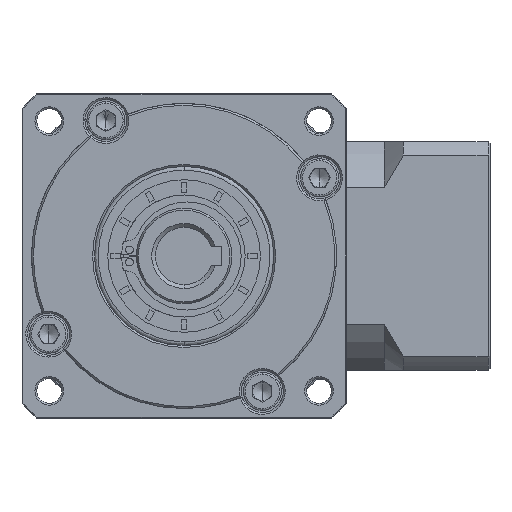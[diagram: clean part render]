
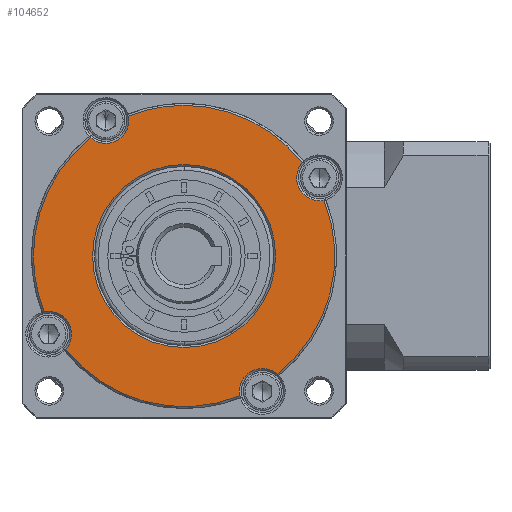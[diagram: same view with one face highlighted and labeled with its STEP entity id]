
A CAD part, left-side view. The second image highlights one B-rep face of the part: STEP entity #104652.
In plain terms, the highlighted planar face has unit normal (-1, 0, 0).
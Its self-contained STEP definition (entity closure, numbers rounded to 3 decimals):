
#3591 = VERTEX_POINT ( 'NONE', #18920 ) ;
#5042 = AXIS2_PLACEMENT_3D ( 'NONE', #129008, #50722, #142163 ) ;
#5152 = EDGE_CURVE ( 'NONE', #13334, #133996, #32668, .T. ) ;
#5500 = EDGE_CURVE ( 'NONE', #47275, #13334, #122535, .T. ) ;
#5593 = CARTESIAN_POINT ( 'NONE',  ( -107.42, 6.028, -115.877 ) ) ;
#7303 = AXIS2_PLACEMENT_3D ( 'NONE', #48671, #140108, #61815 ) ;
#8392 = CIRCLE ( 'NONE', #154260, 39.5 ) ;
#9655 = DIRECTION ( 'NONE',  ( 1., 0., 0. ) ) ;
#11851 = AXIS2_PLACEMENT_3D ( 'NONE', #45869, #137305, #59050 ) ;
#13334 = VERTEX_POINT ( 'NONE', #161311 ) ;
#18645 = DIRECTION ( 'NONE',  ( 0., 1., 0. ) ) ;
#18866 = VERTEX_POINT ( 'NONE', #71332 ) ;
#18920 = CARTESIAN_POINT ( 'NONE',  ( -107.42, -17.972, -115.877 ) ) ;
#19806 = CIRCLE ( 'NONE', #88698, 39.5 ) ;
#20586 = DIRECTION ( 'NONE',  ( 1., 0., 0. ) ) ;
#20839 = CARTESIAN_POINT ( 'NONE',  ( -107.42, 6.028, -115.877 ) ) ;
#22067 = FACE_OUTER_BOUND ( 'NONE', #165148, .T. ) ;
#23769 = CARTESIAN_POINT ( 'NONE',  ( -107.42, 42.723, -130.496 ) ) ;
#25261 = AXIS2_PLACEMENT_3D ( 'NONE', #54951, #146378, #68099 ) ;
#26250 = CARTESIAN_POINT ( 'NONE',  ( -107.42, 6.028, -115.877 ) ) ;
#27998 = ORIENTED_EDGE ( 'NONE', *, *, #5152, .T. ) ;
#32304 = ORIENTED_EDGE ( 'NONE', *, *, #35776, .T. ) ;
#32668 = CIRCLE ( 'NONE', #135603, 6. ) ;
#32754 = CARTESIAN_POINT ( 'NONE',  ( -107.42, -29.479, -101.377 ) ) ;
#33472 = ORIENTED_EDGE ( 'NONE', *, *, #151379, .F. ) ;
#34029 = DIRECTION ( 'NONE',  ( 0., 1., 0. ) ) ;
#35776 = EDGE_CURVE ( 'NONE', #18866, #3591, #107717, .T. ) ;
#36214 = CARTESIAN_POINT ( 'NONE',  ( -107.42, -14.472, -151.384 ) ) ;
#36494 = DIRECTION ( 'NONE',  ( 1., 0., 0. ) ) ;
#39477 = DIRECTION ( 'NONE',  ( 0., 0., 1. ) ) ;
#42797 = CARTESIAN_POINT ( 'NONE',  ( -107.42, 30.497, -84.869 ) ) ;
#45609 = AXIS2_PLACEMENT_3D ( 'NONE', #20839, #112459, #34029 ) ;
#45869 = CARTESIAN_POINT ( 'NONE',  ( -107.42, 26.528, -80.37 ) ) ;
#47275 = VERTEX_POINT ( 'NONE', #108019 ) ;
#48671 = CARTESIAN_POINT ( 'NONE',  ( -107.42, 6.028, -115.877 ) ) ;
#49377 = DIRECTION ( 'NONE',  ( 0., 0., -1. ) ) ;
#50415 = EDGE_CURVE ( 'NONE', #3591, #18866, #84651, .T. ) ;
#50722 = DIRECTION ( 'NONE',  ( 1., 0., 0. ) ) ;
#53423 = AXIS2_PLACEMENT_3D ( 'NONE', #5593, #97039, #18645 ) ;
#53859 = VERTEX_POINT ( 'NONE', #23769 ) ;
#54951 = CARTESIAN_POINT ( 'NONE',  ( -107.42, 6.028, -115.877 ) ) ;
#56187 = EDGE_CURVE ( 'NONE', #101018, #136751, #120722, .T. ) ;
#56690 = EDGE_CURVE ( 'NONE', #125324, #84585, #165512, .T. ) ;
#59050 = DIRECTION ( 'NONE',  ( 0., 0., -1. ) ) ;
#61392 = DIRECTION ( 'NONE',  ( 1., 0., 0. ) ) ;
#61815 = DIRECTION ( 'NONE',  ( 0., -1., 0. ) ) ;
#62255 = CARTESIAN_POINT ( 'NONE',  ( -107.42, -29.479, -95.377 ) ) ;
#63208 = AXIS2_PLACEMENT_3D ( 'NONE', #98923, #20586, #112197 ) ;
#64575 = ORIENTED_EDGE ( 'NONE', *, *, #50415, .T. ) ;
#67727 = AXIS2_PLACEMENT_3D ( 'NONE', #149933, #71738, #163087 ) ;
#67956 = ORIENTED_EDGE ( 'NONE', *, *, #72643, .T. ) ;
#68099 = DIRECTION ( 'NONE',  ( 0., 0., -1. ) ) ;
#68564 = VERTEX_POINT ( 'NONE', #91965 ) ;
#71332 = CARTESIAN_POINT ( 'NONE',  ( -107.42, 30.028, -115.877 ) ) ;
#71738 = DIRECTION ( 'NONE',  ( 1., 0., 0. ) ) ;
#72643 = EDGE_CURVE ( 'NONE', #53859, #136751, #155340, .T. ) ;
#73953 = DIRECTION ( 'NONE',  ( 1., 0., 0. ) ) ;
#75448 = DIRECTION ( 'NONE',  ( 0., 0., -1. ) ) ;
#77460 = AXIS2_PLACEMENT_3D ( 'NONE', #139668, #61392, #152799 ) ;
#79690 = ORIENTED_EDGE ( 'NONE', *, *, #5500, .T. ) ;
#82622 = ORIENTED_EDGE ( 'NONE', *, *, #124445, .F. ) ;
#84585 = VERTEX_POINT ( 'NONE', #94630 ) ;
#84651 = CIRCLE ( 'NONE', #7303, 24. ) ;
#85478 = ORIENTED_EDGE ( 'NONE', *, *, #109543, .F. ) ;
#85704 = CARTESIAN_POINT ( 'NONE',  ( -107.42, -8.591, -152.572 ) ) ;
#87139 = VERTEX_POINT ( 'NONE', #155910 ) ;
#88011 = CARTESIAN_POINT ( 'NONE',  ( -107.42, 41.535, -136.377 ) ) ;
#88698 = AXIS2_PLACEMENT_3D ( 'NONE', #114881, #36494, #127983 ) ;
#91965 = CARTESIAN_POINT ( 'NONE',  ( -107.42, -18.442, -146.885 ) ) ;
#93443 = EDGE_CURVE ( 'NONE', #101018, #68564, #115456, .T. ) ;
#93813 = PLANE ( 'NONE',  #25261 ) ;
#94630 = CARTESIAN_POINT ( 'NONE',  ( -107.42, -24.98, -91.407 ) ) ;
#97039 = DIRECTION ( 'NONE',  ( 1., 0., 0. ) ) ;
#98923 = CARTESIAN_POINT ( 'NONE',  ( -107.42, 6.028, -115.877 ) ) ;
#101018 = VERTEX_POINT ( 'NONE', #85704 ) ;
#101141 = DIRECTION ( 'NONE',  ( 0., 0., -1. ) ) ;
#102380 = ORIENTED_EDGE ( 'NONE', *, *, #93443, .T. ) ;
#104652 = ADVANCED_FACE ( 'NONE', ( #22067, #157130 ), #93813, .T. ) ;
#106055 = CARTESIAN_POINT ( 'NONE',  ( -107.42, 45.528, -115.877 ) ) ;
#107717 = CIRCLE ( 'NONE', #63208, 24. ) ;
#108019 = CARTESIAN_POINT ( 'NONE',  ( -107.42, 20.647, -79.181 ) ) ;
#109543 = EDGE_CURVE ( 'NONE', #47275, #87139, #19806, .T. ) ;
#112197 = DIRECTION ( 'NONE',  ( 0., -1., 0. ) ) ;
#112459 = DIRECTION ( 'NONE',  ( 1., 0., 0. ) ) ;
#113834 = CIRCLE ( 'NONE', #67727, 39.5 ) ;
#114881 = CARTESIAN_POINT ( 'NONE',  ( -107.42, 6.028, -115.877 ) ) ;
#115456 = CIRCLE ( 'NONE', #147537, 6. ) ;
#117497 = ORIENTED_EDGE ( 'NONE', *, *, #56690, .T. ) ;
#117842 = DIRECTION ( 'NONE',  ( 1., 0., 0. ) ) ;
#118989 = CIRCLE ( 'NONE', #145794, 6. ) ;
#119317 = EDGE_CURVE ( 'NONE', #153991, #68564, #8392, .T. ) ;
#120722 = CIRCLE ( 'NONE', #5042, 39.5 ) ;
#121002 = CIRCLE ( 'NONE', #45609, 39.5 ) ;
#122535 = CIRCLE ( 'NONE', #11851, 6. ) ;
#123900 = ORIENTED_EDGE ( 'NONE', *, *, #134219, .F. ) ;
#124445 = EDGE_CURVE ( 'NONE', #87139, #84585, #113834, .T. ) ;
#125324 = VERTEX_POINT ( 'NONE', #32754 ) ;
#127690 = DIRECTION ( 'NONE',  ( 1., 0., 0. ) ) ;
#127983 = DIRECTION ( 'NONE',  ( 0., 0., 1. ) ) ;
#129008 = CARTESIAN_POINT ( 'NONE',  ( -107.42, 6.028, -115.877 ) ) ;
#129769 = ORIENTED_EDGE ( 'NONE', *, *, #56187, .F. ) ;
#133075 = EDGE_LOOP ( 'NONE', ( #64575, #32304 ) ) ;
#133996 = VERTEX_POINT ( 'NONE', #42797 ) ;
#134219 = EDGE_CURVE ( 'NONE', #147651, #133996, #121002, .T. ) ;
#134501 = ORIENTED_EDGE ( 'NONE', *, *, #148532, .T. ) ;
#135603 = AXIS2_PLACEMENT_3D ( 'NONE', #152167, #73953, #165305 ) ;
#136751 = VERTEX_POINT ( 'NONE', #158478 ) ;
#137305 = DIRECTION ( 'NONE',  ( 1., 0., 0. ) ) ;
#139668 = CARTESIAN_POINT ( 'NONE',  ( -107.42, -29.479, -95.377 ) ) ;
#140108 = DIRECTION ( 'NONE',  ( 1., 0., 0. ) ) ;
#142163 = DIRECTION ( 'NONE',  ( 0., 0., 1. ) ) ;
#142798 = AXIS2_PLACEMENT_3D ( 'NONE', #88011, #9655, #101141 ) ;
#144270 = CARTESIAN_POINT ( 'NONE',  ( -107.42, -30.667, -101.258 ) ) ;
#145794 = AXIS2_PLACEMENT_3D ( 'NONE', #62255, #153649, #75448 ) ;
#146378 = DIRECTION ( 'NONE',  ( -1., 0., 0. ) ) ;
#146398 = CIRCLE ( 'NONE', #53423, 39.5 ) ;
#147537 = AXIS2_PLACEMENT_3D ( 'NONE', #36214, #127690, #49377 ) ;
#147651 = VERTEX_POINT ( 'NONE', #106055 ) ;
#148532 = EDGE_CURVE ( 'NONE', #153991, #125324, #118989, .T. ) ;
#149933 = CARTESIAN_POINT ( 'NONE',  ( -107.42, 6.028, -115.877 ) ) ;
#151379 = EDGE_CURVE ( 'NONE', #53859, #147651, #146398, .T. ) ;
#152167 = CARTESIAN_POINT ( 'NONE',  ( -107.42, 26.528, -80.37 ) ) ;
#152799 = DIRECTION ( 'NONE',  ( 0., 0., -1. ) ) ;
#153649 = DIRECTION ( 'NONE',  ( 1., 0., 0. ) ) ;
#153991 = VERTEX_POINT ( 'NONE', #144270 ) ;
#154260 = AXIS2_PLACEMENT_3D ( 'NONE', #26250, #117842, #39477 ) ;
#155340 = CIRCLE ( 'NONE', #142798, 6. ) ;
#155910 = CARTESIAN_POINT ( 'NONE',  ( -107.42, 6.028, -76.377 ) ) ;
#157130 = FACE_BOUND ( 'NONE', #133075, .T. ) ;
#158478 = CARTESIAN_POINT ( 'NONE',  ( -107.42, 37.036, -140.346 ) ) ;
#161311 = CARTESIAN_POINT ( 'NONE',  ( -107.42, 26.528, -86.37 ) ) ;
#163087 = DIRECTION ( 'NONE',  ( 0., 0., 1. ) ) ;
#165148 = EDGE_LOOP ( 'NONE', ( #85478, #79690, #27998, #123900, #33472, #67956, #129769, #102380, #166689, #134501, #117497, #82622 ) ) ;
#165305 = DIRECTION ( 'NONE',  ( 0., 0., -1. ) ) ;
#165512 = CIRCLE ( 'NONE', #77460, 6. ) ;
#166689 = ORIENTED_EDGE ( 'NONE', *, *, #119317, .F. ) ;
